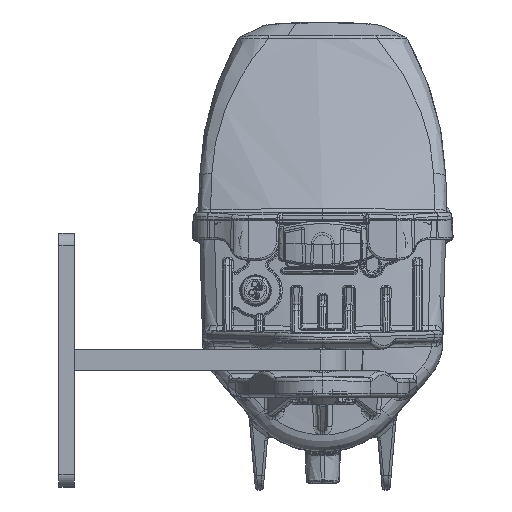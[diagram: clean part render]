
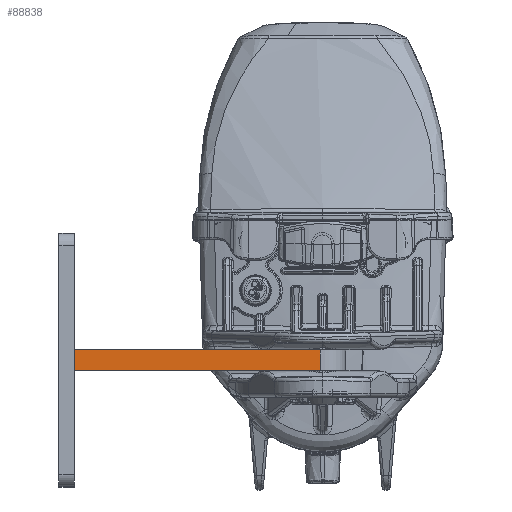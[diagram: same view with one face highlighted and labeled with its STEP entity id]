
A CAD part, top view. The second image highlights one B-rep face of the part: STEP entity #88838.
In plain terms, the highlighted planar face has unit normal (0, 0, 1) as drawn and (-1, 0, 0) by its records, which use the part's own axes.
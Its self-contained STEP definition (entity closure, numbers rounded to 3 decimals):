
#967 = ORIENTED_EDGE ( 'NONE', *, *, #89778, .F. ) ;
#4514 = VERTEX_POINT ( 'NONE', #91919 ) ;
#7013 = EDGE_LOOP ( 'NONE', ( #163968, #967, #35538, #106434 ) ) ;
#16127 = PLANE ( 'NONE',  #74597 ) ;
#20720 = VERTEX_POINT ( 'NONE', #21209 ) ;
#21209 = CARTESIAN_POINT ( 'NONE',  ( -15., 4., 103. ) ) ;
#23252 = CARTESIAN_POINT ( 'NONE',  ( -15., -4., 103. ) ) ;
#35538 = ORIENTED_EDGE ( 'NONE', *, *, #157775, .T. ) ;
#41828 = LINE ( 'NONE', #98957, #45018 ) ;
#45018 = VECTOR ( 'NONE', #156117, 1000. ) ;
#49490 = DIRECTION ( 'NONE',  ( 0., 1., 0. ) ) ;
#50397 = LINE ( 'NONE', #107555, #124810 ) ;
#52371 = EDGE_CURVE ( 'NONE', #133299, #20720, #79457, .T. ) ;
#53040 = DIRECTION ( 'NONE',  ( 0., 1., 0. ) ) ;
#57102 = VECTOR ( 'NONE', #53040, 1000. ) ;
#62005 = DIRECTION ( 'NONE',  ( 0., 1., 0. ) ) ;
#69878 = LINE ( 'NONE', #126100, #57102 ) ;
#74597 = AXIS2_PLACEMENT_3D ( 'NONE', #174366, #173447, #62005 ) ;
#75170 = FACE_OUTER_BOUND ( 'NONE', #7013, .T. ) ;
#79457 = LINE ( 'NONE', #178696, #184113 ) ;
#85225 = VERTEX_POINT ( 'NONE', #153132 ) ;
#88838 = ADVANCED_FACE ( 'NONE', ( #75170 ), #16127, .T. ) ;
#89778 = EDGE_CURVE ( 'NONE', #4514, #85225, #69878, .T. ) ;
#91919 = CARTESIAN_POINT ( 'NONE',  ( -15., -4., 1. ) ) ;
#98957 = CARTESIAN_POINT ( 'NONE',  ( -15., -4., 1. ) ) ;
#106434 = ORIENTED_EDGE ( 'NONE', *, *, #52371, .T. ) ;
#107555 = CARTESIAN_POINT ( 'NONE',  ( -15., 4., 1. ) ) ;
#119790 = DIRECTION ( 'NONE',  ( 0., 0., 1. ) ) ;
#124810 = VECTOR ( 'NONE', #119790, 1000. ) ;
#126100 = CARTESIAN_POINT ( 'NONE',  ( -15., -4., 1. ) ) ;
#133299 = VERTEX_POINT ( 'NONE', #23252 ) ;
#150073 = EDGE_CURVE ( 'NONE', #85225, #20720, #50397, .T. ) ;
#153132 = CARTESIAN_POINT ( 'NONE',  ( -15., 4., 1. ) ) ;
#156117 = DIRECTION ( 'NONE',  ( 0., 0., 1. ) ) ;
#157775 = EDGE_CURVE ( 'NONE', #4514, #133299, #41828, .T. ) ;
#163968 = ORIENTED_EDGE ( 'NONE', *, *, #150073, .F. ) ;
#173447 = DIRECTION ( 'NONE',  ( -1., 0., 0. ) ) ;
#174366 = CARTESIAN_POINT ( 'NONE',  ( -15., -4., 1. ) ) ;
#178696 = CARTESIAN_POINT ( 'NONE',  ( -15., -4., 103. ) ) ;
#184113 = VECTOR ( 'NONE', #49490, 1000. ) ;
